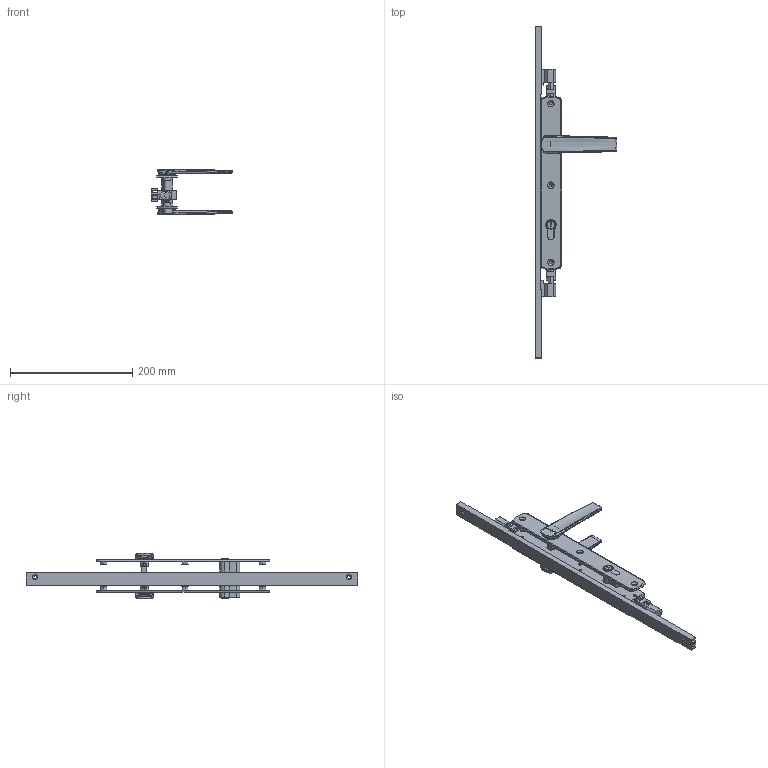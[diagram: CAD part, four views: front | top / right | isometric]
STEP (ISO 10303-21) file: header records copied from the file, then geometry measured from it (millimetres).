
FILE_DESCRIPTION (( 'STEP AP214' ), '1' );
FILE_NAME ('TPL-W-APC-615-U 28Oct2024.STEP', '2024-10-28T03:57:26', ( '' ), ( '' ), 'SwSTEP 2.0', 'SolidWorks 2023', '' );
FILE_SCHEMA (( 'AUTOMOTIVE_DESIGN' ));
Length unit declared in the file: millimetre
Products named in the file (24): Copy (2) of TPGen2 handle keyed internal zinc - simplified^TPL-W-APC-115 18Oct2024_Right; TPL-W-APC-615-U 28Oct2024; Copy of LKC-505 Swing handle zinc - simplified^Copy (2) of TPGen2 handle keyed external zinc - simplified_TPL-W-APC-115 18Oct2024; Copy (2) of TPGen2 handle keyed external zinc - simplified^TPL-W-APC-115 18Oct2024_Left; Copy of LKC-585 Rotator body zinc^Copy (2) of TPGen2 handle keyed internal zinc - simplified_TPL-W-APC-115 18Oct2024; Copy of COV-115-C Cover C suit TPLGen2 standard range AU^TPL-W-APC-115 18Oct2024; Copy of LKC-584 Pivot body zinc - simplified^Copy (2) of TPGen2 handle keyed internal zinc - simplified_TPL-W-APC-115 18Oct2024; Copy of Copy of LKC-531 Lock twinpoint transmission rod wood system^TPL-W-APC-115 18Oct2024_Standard Range 2891.7mm; Copy of Copy of Copy of LKC-531 Lock twinpoint transmission rod wood system^TPL-W-APC-115 18Oct2024_Standard Range 2891.7mm; Copy of COV-115-B Cover B suit TPLGen2 standard range AU with hinge holes^TPL-W-APC-115 18Oct2024_2870mm; Copy of LKC-512 Escutcheon plate keyed internal 285mm long zinc - simplified^Copy (2) of TPGen2 handle keyed internal zinc - simplified_TPL-W-APC-115 18Oct2024; Copy of COV-115-A Cover A suit TPLGen2 standard range AU with hinge holes^TPL-W-APC-115 18Oct2024_2870mm; Copy of TPLGen2 lock body keyed assembly^TPL-W-APC-115 18Oct2024_Bolts retracted; Copy of Adapter C - simplfied^TPL-W-APC-115 18Oct2024; Copy of LKC-505 Swing handle zinc - simplified^Copy (2) of TPGen2 handle keyed internal zinc - simplified_TPL-W-APC-115 18Oct2024; Copy of TPLGen2 push rod - simplified^Copy of TPLGen2 lock body keyed assembly_TPL-W-APC-115 18Oct2024_Female thread M10; Copy of Adapter D - simplfied^TPL-W-APC-115 18Oct2024; Copy of LKC-584 Pivot body zinc - simplified^Copy (2) of TPGen2 handle keyed external zinc - simplified_TPL-W-APC-115 18Oct2024; Copy of TPLGen2 lock body keyed^Copy of TPLGen2 lock body keyed assembly_TPL-W-APC-115 18Oct2024; Copy of TPL-021 Lock cylinder double key C4 5 pin 62 (30-32)mm^TPL-W-APC-115 18Oct2024_Left; Bolt.step; Copy of LKC-585 Rotator body zinc^Copy (2) of TPGen2 handle keyed external zinc - simplified_TPL-W-APC-115 18Oct2024; Copy of LKC-514 Escutcheon plate keyed external 285mm long zinc - simplified^Copy (2) of TPGen2 handle keyed external zinc - simplified_TPL-W-APC-115 18Oct2024; Copy of LKC-586 Spindle square 8mm with M4 hole^Copy (2) of TPGen2 handle keyed internal zinc - simplified_TPL-W-APC-115 18Oct2024_42mm
Assembly tree (21 placements, depth 3):
  TPL-W-APC-615-U 28Oct2024
    Copy of TPLGen2 lock body keyed assembly^TPL-W-APC-115 18Oct2024_Bolts retracted
      Copy of TPLGen2 lock body keyed^Copy of TPLGen2 lock body keyed assembly_TPL-W-APC-115 18Oct2024
      Copy of TPLGen2 push rod - simplified^Copy of TPLGen2 lock body keyed assembly_TPL-W-APC-115 18Oct2024_Female thread M10  x2
    Copy (2) of TPGen2 handle keyed external zinc - simplified^TPL-W-APC-115 18Oct2024_Left
      Copy of LKC-514 Escutcheon plate keyed external 285mm long zinc - simplified^Copy (2) of TPGen2 handle keyed external zinc - simplified_TPL-W-APC-115 18Oct2024
      Copy of LKC-505 Swing handle zinc - simplified^Copy (2) of TPGen2 handle keyed external zinc - simplified_TPL-W-APC-115 18Oct2024
      Copy of LKC-585 Rotator body zinc^Copy (2) of TPGen2 handle keyed external zinc - simplified_TPL-W-APC-115 18Oct2024
      Copy of LKC-584 Pivot body zinc - simplified^Copy (2) of TPGen2 handle keyed external zinc - simplified_TPL-W-APC-115 18Oct2024
    Copy (2) of TPGen2 handle keyed internal zinc - simplified^TPL-W-APC-115 18Oct2024_Right
      Copy of LKC-512 Escutcheon plate keyed internal 285mm long zinc - simplified^Copy (2) of TPGen2 handle keyed internal zinc - simplified_TPL-W-APC-115 18Oct2024
      Copy of LKC-505 Swing handle zinc - simplified^Copy (2) of TPGen2 handle keyed internal zinc - simplified_TPL-W-APC-115 18Oct2024
      Copy of LKC-585 Rotator body zinc^Copy (2) of TPGen2 handle keyed internal zinc - simplified_TPL-W-APC-115 18Oct2024
      Copy of LKC-586 Spindle square 8mm with M4 hole^Copy (2) of TPGen2 handle keyed internal zinc - simplified_TPL-W-APC-115 18Oct2024_42mm
      Copy of LKC-584 Pivot body zinc - simplified^Copy (2) of TPGen2 handle keyed internal zinc - simplified_TPL-W-APC-115 18Oct2024
    Copy of TPL-021 Lock cylinder double key C4 5 pin 62 (30-32)mm^TPL-W-APC-115 18Oct2024_Left
    Copy of COV-115-C Cover C suit TPLGen2 standard range AU^TPL-W-APC-115 18Oct2024
    Copy of Copy of LKC-531 Lock twinpoint transmission rod wood system^TPL-W-APC-115 18Oct2024_Standard Range 2891.7mm
    Copy of Copy of Copy of LKC-531 Lock twinpoint transmission rod wood system^TPL-W-APC-115 18Oct2024_Standard Range 2891.7mm
    Copy of Adapter C - simplfied^TPL-W-APC-115 18Oct2024
    Copy of Adapter D - simplfied^TPL-W-APC-115 18Oct2024
  Copy of COV-115-B Cover B suit TPLGen2 standard range AU with hinge holes^TPL-W-APC-115 18Oct2024_2870mm
  Copy of COV-115-A Cover A suit TPLGen2 standard range AU with hinge holes^TPL-W-APC-115 18Oct2024_2870mm
  Bolt.step
Bounding box: 134.12 x 544 x 74.92 mm (x, y, z)
Volume: 347772.2 mm3; surface area: 171233.4 mm2
Topology: 18 solids, 18 shells, 1379 faces, 3347 edges, 2046 vertices
Faces by surface type: bspline 417, plane 387, cylinder 329, cone 132, torus 98, sphere 16
Entity records: 51947 total; most frequent: CARTESIAN_POINT 22750, ORIENTED_EDGE 6498, DIRECTION 5259, EDGE_CURVE 3249, AXIS2_PLACEMENT_3D 2039, VERTEX_POINT 1986, EDGE_LOOP 1477, FACE_OUTER_BOUND 1344
